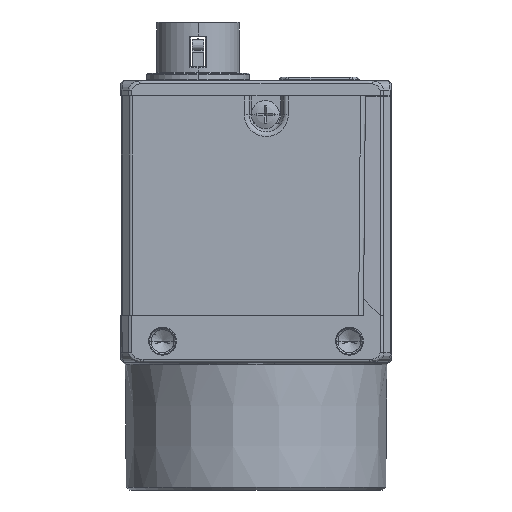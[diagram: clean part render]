
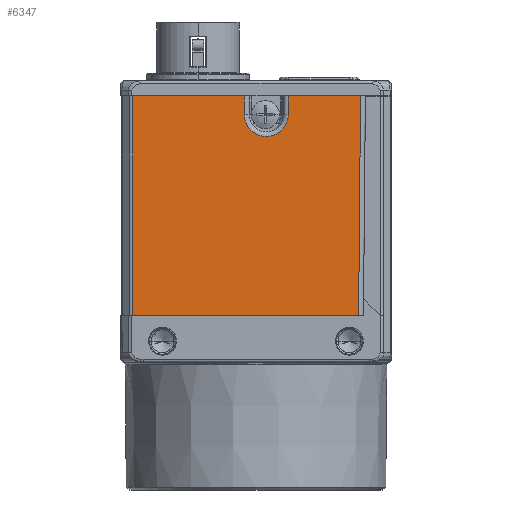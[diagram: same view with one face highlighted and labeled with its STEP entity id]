
A CAD part, left-side view. The second image highlights one B-rep face of the part: STEP entity #6347.
In plain terms, the highlighted planar face has unit normal (-1, 0, 0).
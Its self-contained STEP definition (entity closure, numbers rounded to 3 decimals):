
#4219=DIRECTION('',(0.,0.,-1.));
#4220=VECTOR('',#4219,23.5);
#4221=CARTESIAN_POINT('',(-14.5,13.193,23.));
#4222=LINE('',#4221,#4220);
#4227=DIRECTION('',(0.,-0.009,1.));
#4228=VECTOR('',#4227,23.501);
#4229=CARTESIAN_POINT('',(-14.5,-10.98,-0.5));
#4230=LINE('',#4229,#4228);
#4231=CARTESIAN_POINT('',(-14.5,-1.1,21.));
#4232=DIRECTION('',(1.,0.,0.));
#4233=DIRECTION('',(0.,-1.,0.));
#4234=AXIS2_PLACEMENT_3D('',#4231,#4232,#4233);
#4404=DIRECTION('',(0.,1.,0.));
#4405=VECTOR('',#4404,7.727);
#4406=CARTESIAN_POINT('',(-14.5,-11.185,23.));
#4407=LINE('',#4406,#4405);
#4426=DIRECTION('',(0.,0.,-1.));
#4427=VECTOR('',#4426,2.);
#4428=CARTESIAN_POINT('',(-14.5,-3.458,23.));
#4429=LINE('',#4428,#4427);
#4449=DIRECTION('',(0.,0.,1.));
#4450=VECTOR('',#4449,2.);
#4451=CARTESIAN_POINT('',(-14.5,1.258,21.));
#4452=LINE('',#4451,#4450);
#4475=DIRECTION('',(0.,1.,0.));
#4476=VECTOR('',#4475,11.935);
#4477=CARTESIAN_POINT('',(-14.5,1.258,23.));
#4478=LINE('',#4477,#4476);
#4871=DIRECTION('',(0.,1.,0.));
#4872=VECTOR('',#4871,24.173);
#4873=CARTESIAN_POINT('',(-14.5,-10.98,-0.5));
#4874=LINE('',#4873,#4872);
#5435=CARTESIAN_POINT('',(-14.5,13.193,-0.5));
#5436=VERTEX_POINT('',#5435);
#5437=CARTESIAN_POINT('',(-14.5,13.193,23.));
#5438=VERTEX_POINT('',#5437);
#5439=CARTESIAN_POINT('',(-14.5,-10.98,-0.5));
#5440=CARTESIAN_POINT('',(-14.5,-11.185,23.));
#5441=VERTEX_POINT('',#5439);
#5442=VERTEX_POINT('',#5440);
#5443=CARTESIAN_POINT('',(-14.5,1.258,23.));
#5444=VERTEX_POINT('',#5443);
#5445=CARTESIAN_POINT('',(-14.5,1.258,21.));
#5446=VERTEX_POINT('',#5445);
#5447=CARTESIAN_POINT('',(-14.5,-3.458,21.));
#5448=VERTEX_POINT('',#5447);
#5449=CARTESIAN_POINT('',(-14.5,-3.458,23.));
#5450=VERTEX_POINT('',#5449);
#6325=CARTESIAN_POINT('',(-14.5,1.004,11.25));
#6326=DIRECTION('',(1.,0.,0.));
#6327=DIRECTION('',(0.,-1.,0.));
#6328=AXIS2_PLACEMENT_3D('',#6325,#6326,#6327);
#6329=PLANE('',#6328);
#6331=ORIENTED_EDGE('',*,*,#6330,.F.);
#6333=ORIENTED_EDGE('',*,*,#6332,.T.);
#6334=ORIENTED_EDGE('',*,*,#6316,.F.);
#6336=ORIENTED_EDGE('',*,*,#6335,.F.);
#6338=ORIENTED_EDGE('',*,*,#6337,.F.);
#6340=ORIENTED_EDGE('',*,*,#6339,.F.);
#6342=ORIENTED_EDGE('',*,*,#6341,.F.);
#6344=ORIENTED_EDGE('',*,*,#6343,.F.);
#6345=EDGE_LOOP('',(#6331,#6333,#6334,#6336,#6338,#6340,#6342,#6344));
#6346=FACE_OUTER_BOUND('',#6345,.F.);
#6347=ADVANCED_FACE('',(#6346),#6329,.F.);
#4235=CIRCLE('',#4234,2.358);
#6316=EDGE_CURVE('',#5438,#5436,#4222,.T.);
#6330=EDGE_CURVE('',#5441,#5442,#4230,.T.);
#6332=EDGE_CURVE('',#5441,#5436,#4874,.T.);
#6335=EDGE_CURVE('',#5444,#5438,#4478,.T.);
#6337=EDGE_CURVE('',#5446,#5444,#4452,.T.);
#6339=EDGE_CURVE('',#5448,#5446,#4235,.T.);
#6341=EDGE_CURVE('',#5450,#5448,#4429,.T.);
#6343=EDGE_CURVE('',#5442,#5450,#4407,.T.);
